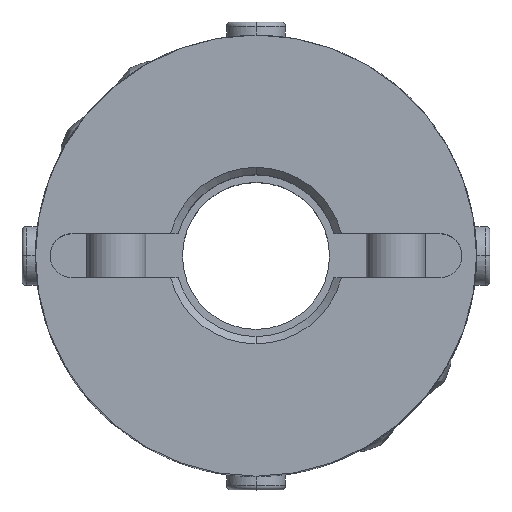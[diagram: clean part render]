
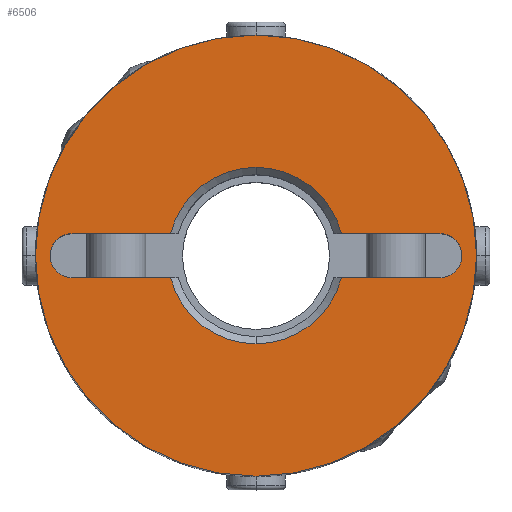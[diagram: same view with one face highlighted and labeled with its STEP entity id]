
A CAD part, top view. The second image highlights one B-rep face of the part: STEP entity #6506.
In plain terms, the highlighted planar face has unit normal (0, 0, 1).
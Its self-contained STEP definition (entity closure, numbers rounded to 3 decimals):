
#2703=CARTESIAN_POINT('',(0.,6.,15.0));
#2704=VERTEX_POINT('',#2703);
#2720=CARTESIAN_POINT('',(5.809,1.5,15.0));
#2721=VERTEX_POINT('',#2720);
#2735=CARTESIAN_POINT('',(0.,0.,15.0));
#2736=DIRECTION('',(0.0,0.0,1.0));
#2737=DIRECTION('',(0.0,1.0,0.0));
#2738=AXIS2_PLACEMENT_3D('',#2735,#2736,#2737);
#2739=CIRCLE('',#2738,6.0);
#2740=EDGE_CURVE('',#2721,#2704,#2739,.T.);
#2750=CARTESIAN_POINT('',(0.,-6.,15.0));
#2751=VERTEX_POINT('',#2750);
#2760=CARTESIAN_POINT('',(5.809,-1.5,15.0));
#2761=VERTEX_POINT('',#2760);
#2762=CARTESIAN_POINT('',(0.,0.,15.0));
#2763=DIRECTION('',(0.0,0.0,1.0));
#2764=DIRECTION('',(0.0,1.0,0.0));
#2765=AXIS2_PLACEMENT_3D('',#2762,#2763,#2764);
#2766=CIRCLE('',#2765,6.0);
#2767=EDGE_CURVE('',#2751,#2761,#2766,.T.);
#2926=CARTESIAN_POINT('',(-13.561,-1.061,15.0));
#2927=VERTEX_POINT('',#2926);
#2943=CARTESIAN_POINT('',(-12.5,1.5,15.0));
#2944=VERTEX_POINT('',#2943);
#2951=CARTESIAN_POINT('',(-12.5,0.,15.0));
#2952=DIRECTION('',(0.0,0.0,1.0));
#2953=DIRECTION('',(-0.707,0.707,0.0));
#2954=AXIS2_PLACEMENT_3D('',#2951,#2952,#2953);
#2955=CIRCLE('',#2954,1.5);
#2956=EDGE_CURVE('',#2944,#2927,#2955,.T.);
#2968=CARTESIAN_POINT('',(13.561,-1.061,15.0));
#2969=VERTEX_POINT('',#2968);
#2985=CARTESIAN_POINT('',(12.5,-1.5,15.0));
#2986=VERTEX_POINT('',#2985);
#2993=CARTESIAN_POINT('',(12.5,0.,15.0));
#2994=DIRECTION('',(0.0,0.0,1.0));
#2995=DIRECTION('',(0.707,-0.707,0.0));
#2996=AXIS2_PLACEMENT_3D('',#2993,#2994,#2995);
#2997=CIRCLE('',#2996,1.5);
#2998=EDGE_CURVE('',#2986,#2969,#2997,.T.);
#3452=CARTESIAN_POINT('',(0.,-15.,15.0));
#3453=VERTEX_POINT('',#3452);
#3460=CARTESIAN_POINT('',(0.,15.,15.0));
#3461=VERTEX_POINT('',#3460);
#3462=CARTESIAN_POINT('',(0.,0.,15.0));
#3463=DIRECTION('',(0.0,0.0,-1.0));
#3464=DIRECTION('',(0.0,1.0,0.0));
#3465=AXIS2_PLACEMENT_3D('',#3462,#3463,#3464);
#3466=CIRCLE('',#3465,15.0);
#3467=EDGE_CURVE('',#3453,#3461,#3466,.T.);
#5779=CARTESIAN_POINT('',(0.,0.,15.0));
#5780=DIRECTION('',(0.0,0.0,-1.0));
#5781=DIRECTION('',(0.0,1.0,0.0));
#5782=AXIS2_PLACEMENT_3D('',#5779,#5780,#5781);
#5783=CIRCLE('',#5782,15.0);
#5784=EDGE_CURVE('',#3461,#3453,#5783,.T.);
#6272=CARTESIAN_POINT('',(12.5,1.5,15.0));
#6273=VERTEX_POINT('',#6272);
#6280=CARTESIAN_POINT('',(5.809,1.5,15.0));
#6281=DIRECTION('',(1.0,0.0,0.0));
#6282=VECTOR('',#6281,6.691);
#6283=LINE('',#6280,#6282);
#6284=EDGE_CURVE('',#2721,#6273,#6283,.T.);
#6308=CARTESIAN_POINT('',(12.5,0.,15.0));
#6309=DIRECTION('',(0.0,0.0,1.0));
#6310=DIRECTION('',(0.707,-0.707,0.0));
#6311=AXIS2_PLACEMENT_3D('',#6308,#6309,#6310);
#6312=CIRCLE('',#6311,1.5);
#6313=EDGE_CURVE('',#2969,#6273,#6312,.T.);
#6326=CARTESIAN_POINT('',(-12.5,-1.5,15.0));
#6327=VERTEX_POINT('',#6326);
#6328=CARTESIAN_POINT('',(-12.5,0.,15.0));
#6329=DIRECTION('',(0.0,0.0,1.0));
#6330=DIRECTION('',(-0.707,0.707,0.0));
#6331=AXIS2_PLACEMENT_3D('',#6328,#6329,#6330);
#6332=CIRCLE('',#6331,1.5);
#6333=EDGE_CURVE('',#2927,#6327,#6332,.T.);
#6366=CARTESIAN_POINT('',(-5.809,1.5,15.0));
#6367=VERTEX_POINT('',#6366);
#6381=CARTESIAN_POINT('',(-12.5,1.5,15.0));
#6382=DIRECTION('',(1.0,0.0,0.0));
#6383=VECTOR('',#6382,6.691);
#6384=LINE('',#6381,#6383);
#6385=EDGE_CURVE('',#2944,#6367,#6384,.T.);
#6400=CARTESIAN_POINT('',(-5.809,-1.5,15.0));
#6401=VERTEX_POINT('',#6400);
#6402=CARTESIAN_POINT('',(-5.809,-1.5,15.0));
#6403=DIRECTION('',(-1.0,0.0,0.0));
#6404=VECTOR('',#6403,6.691);
#6405=LINE('',#6402,#6404);
#6406=EDGE_CURVE('',#6401,#6327,#6405,.T.);
#6458=CARTESIAN_POINT('',(12.5,-1.5,15.0));
#6459=DIRECTION('',(-1.0,0.0,0.0));
#6460=VECTOR('',#6459,6.691);
#6461=LINE('',#6458,#6460);
#6462=EDGE_CURVE('',#2986,#2761,#6461,.T.);
#6471=CARTESIAN_POINT('',(0.,1.364,15.0));
#6472=DIRECTION('',(0.0,0.0,1.0));
#6473=DIRECTION('',(0.0,1.0,0.0));
#6474=AXIS2_PLACEMENT_3D('',#6471,#6472,#6473);
#6475=PLANE('',#6474);
#6476=ORIENTED_EDGE('',*,*,#5784,.F.);
#6477=ORIENTED_EDGE('',*,*,#3467,.F.);
#6478=EDGE_LOOP('',(#6476,#6477));
#6479=FACE_OUTER_BOUND('',#6478,.T.);
#6480=ORIENTED_EDGE('',*,*,#6284,.T.);
#6481=ORIENTED_EDGE('',*,*,#6313,.F.);
#6482=ORIENTED_EDGE('',*,*,#2998,.F.);
#6483=ORIENTED_EDGE('',*,*,#6462,.T.);
#6484=ORIENTED_EDGE('',*,*,#2767,.F.);
#6485=CARTESIAN_POINT('',(0.,0.,15.0));
#6486=DIRECTION('',(0.0,0.0,1.0));
#6487=DIRECTION('',(0.0,1.0,0.0));
#6488=AXIS2_PLACEMENT_3D('',#6485,#6486,#6487);
#6489=CIRCLE('',#6488,6.0);
#6490=EDGE_CURVE('',#6401,#2751,#6489,.T.);
#6491=ORIENTED_EDGE('',*,*,#6490,.F.);
#6492=ORIENTED_EDGE('',*,*,#6406,.T.);
#6493=ORIENTED_EDGE('',*,*,#6333,.F.);
#6494=ORIENTED_EDGE('',*,*,#2956,.F.);
#6495=ORIENTED_EDGE('',*,*,#6385,.T.);
#6496=CARTESIAN_POINT('',(0.,0.,15.0));
#6497=DIRECTION('',(0.0,0.0,1.0));
#6498=DIRECTION('',(0.0,1.0,0.0));
#6499=AXIS2_PLACEMENT_3D('',#6496,#6497,#6498);
#6500=CIRCLE('',#6499,6.0);
#6501=EDGE_CURVE('',#2704,#6367,#6500,.T.);
#6502=ORIENTED_EDGE('',*,*,#6501,.F.);
#6503=ORIENTED_EDGE('',*,*,#2740,.F.);
#6504=EDGE_LOOP('',(#6480,#6481,#6482,#6483,#6484,#6491,#6492,#6493,#6494,#6495,#6502,#6503));
#6505=FACE_BOUND('',#6504,.T.);
#6506=ADVANCED_FACE('',(#6479,#6505),#6475,.T.);
